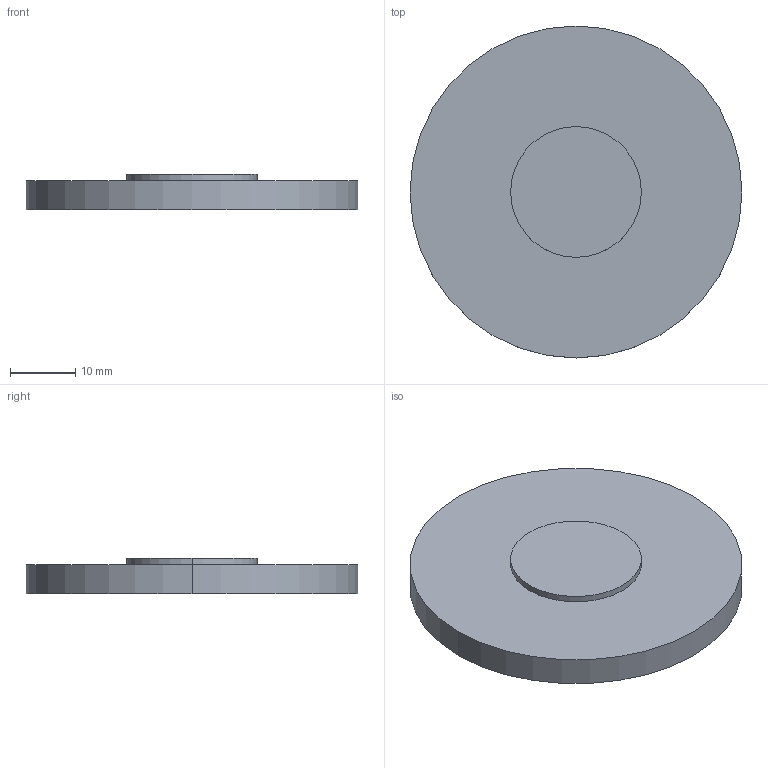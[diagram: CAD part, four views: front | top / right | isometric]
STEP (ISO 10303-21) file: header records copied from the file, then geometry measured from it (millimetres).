
FILE_DESCRIPTION(('STEP AP214'),'1');
FILE_NAME('LLR-5120M.STEP','2020-03-09T17:42:03',(' '),(' '),'Spatial InterOp 3D',' ',' ');
FILE_SCHEMA(('AUTOMOTIVE_DESIGN { 1 0 10303 214 1 1 1 1 }'));
Length unit declared in the file: millimetre
Products named in the file (1): 1
Bounding box: 50.8 x 50.8 x 5.5 mm (x, y, z)
Volume: 9396 mm3; surface area: 5456.9 mm2
Topology: 2 solids, 2 shells, 9 faces, 16 edges, 9 vertices
Faces by surface type: cylinder 4, plane 3, sphere 2
Entity records: 229 total; most frequent: DIRECTION 46, CARTESIAN_POINT 34, ORIENTED_EDGE 28, AXIS2_PLACEMENT_3D 21, EDGE_CURVE 14, CIRCLE 10, ADVANCED_FACE 9, FACE_OUTER_BOUND 9
